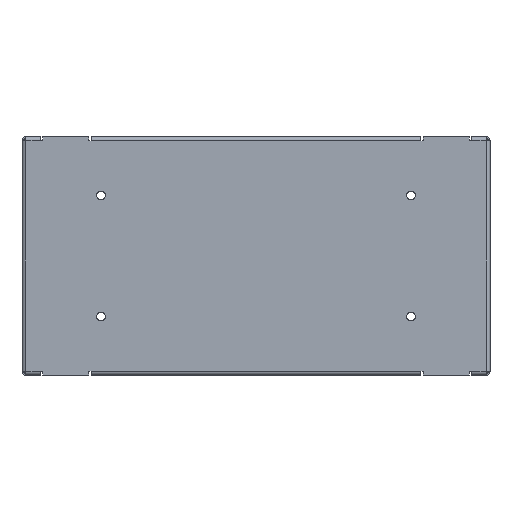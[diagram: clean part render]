
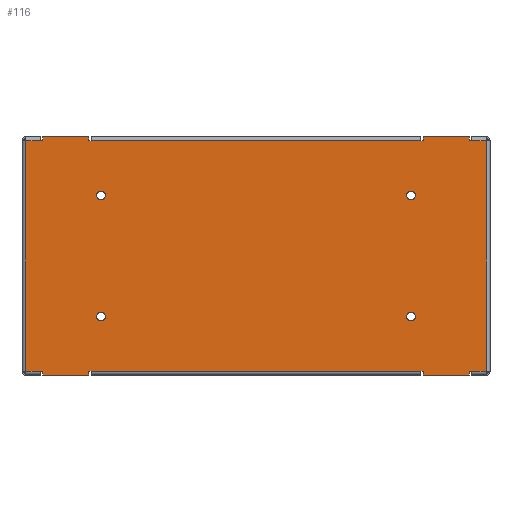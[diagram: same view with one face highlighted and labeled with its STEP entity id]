
A CAD part, top view. The second image highlights one B-rep face of the part: STEP entity #116.
In plain terms, the highlighted planar face has unit normal (0, 0, 1).
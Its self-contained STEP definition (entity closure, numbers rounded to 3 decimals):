
#116=ADVANCED_FACE('',(#582,#584,#586,#588,#590),#592,.F.);
#582=FACE_BOUND('',#583,.T.);
#583=EDGE_LOOP('',(#1966,#1967,#1968,#1969,#1970,#1971,#1972,#1973,#1974,#1975,#1976,
#1977,#1978,#1979,#1980,#1981,#1982,#1983,#1984,#1985,#1986,#1987,#1988,#1989,#1990,
#1991,#1992,#1993));
#584=FACE_BOUND('',#585,.T.);
#585=EDGE_LOOP('',(#1994));
#586=FACE_BOUND('',#587,.T.);
#587=EDGE_LOOP('',(#1995));
#588=FACE_BOUND('',#589,.T.);
#589=EDGE_LOOP('',(#1996));
#590=FACE_BOUND('',#591,.T.);
#591=EDGE_LOOP('',(#1997));
#592=PLANE('',#593);
#593=AXIS2_PLACEMENT_3D('',#594,#595,#596);
#594=CARTESIAN_POINT('',(0.,0.,0.));
#595=DIRECTION('',(0.,0.,-1.));
#596=DIRECTION('',(-1.,0.,0.));
#1966=ORIENTED_EDGE('',*,*,#2666,.T.);
#1967=ORIENTED_EDGE('',*,*,#2565,.T.);
#1968=ORIENTED_EDGE('',*,*,#2549,.T.);
#1969=ORIENTED_EDGE('',*,*,#2667,.F.);
#1970=ORIENTED_EDGE('',*,*,#2668,.F.);
#1971=ORIENTED_EDGE('',*,*,#2669,.F.);
#1972=ORIENTED_EDGE('',*,*,#2551,.T.);
#1973=ORIENTED_EDGE('',*,*,#2557,.T.);
#1974=ORIENTED_EDGE('',*,*,#2541,.T.);
#1975=ORIENTED_EDGE('',*,*,#2670,.F.);
#1976=ORIENTED_EDGE('',*,*,#2671,.F.);
#1977=ORIENTED_EDGE('',*,*,#2672,.F.);
#1978=ORIENTED_EDGE('',*,*,#2543,.T.);
#1979=ORIENTED_EDGE('',*,*,#2559,.T.);
#1980=ORIENTED_EDGE('',*,*,#2673,.T.);
#1981=ORIENTED_EDGE('',*,*,#2674,.T.);
#1982=ORIENTED_EDGE('',*,*,#2675,.F.);
#1983=ORIENTED_EDGE('',*,*,#2676,.T.);
#1984=ORIENTED_EDGE('',*,*,#2677,.T.);
#1985=ORIENTED_EDGE('',*,*,#2678,.T.);
#1986=ORIENTED_EDGE('',*,*,#2610,.F.);
#1987=ORIENTED_EDGE('',*,*,#2618,.T.);
#1988=ORIENTED_EDGE('',*,*,#2679,.F.);
#1989=ORIENTED_EDGE('',*,*,#2680,.T.);
#1990=ORIENTED_EDGE('',*,*,#2681,.T.);
#1991=ORIENTED_EDGE('',*,*,#2682,.T.);
#1992=ORIENTED_EDGE('',*,*,#2614,.F.);
#1993=ORIENTED_EDGE('',*,*,#2622,.T.);
#1994=ORIENTED_EDGE('',*,*,#2521,.T.);
#1995=ORIENTED_EDGE('',*,*,#2523,.T.);
#1996=ORIENTED_EDGE('',*,*,#2535,.F.);
#1997=ORIENTED_EDGE('',*,*,#2537,.F.);
#2521=EDGE_CURVE('',#2895,#2895,#2896,.T.);
#2523=EDGE_CURVE('',#2899,#2899,#2900,.T.);
#2535=EDGE_CURVE('',#2923,#2923,#2924,.T.);
#2537=EDGE_CURVE('',#2927,#2927,#2928,.T.);
#2541=EDGE_CURVE('',#2936,#2934,#2937,.T.);
#2543=EDGE_CURVE('',#2939,#2940,#2941,.T.);
#2549=EDGE_CURVE('',#2952,#2950,#2953,.T.);
#2551=EDGE_CURVE('',#2955,#2956,#2957,.T.);
#2557=EDGE_CURVE('',#2956,#2936,#2967,.T.);
#2559=EDGE_CURVE('',#2940,#2969,#2970,.T.);
#2565=EDGE_CURVE('',#2980,#2952,#2981,.T.);
#2610=EDGE_CURVE('',#3052,#3048,#3054,.T.);
#2614=EDGE_CURVE('',#3060,#3056,#3062,.T.);
#2618=EDGE_CURVE('',#3052,#3067,#3069,.T.);
#2622=EDGE_CURVE('',#3060,#3074,#3076,.T.);
#2666=EDGE_CURVE('',#3074,#2980,#3148,.T.);
#2667=EDGE_CURVE('',#3149,#2950,#3150,.T.);
#2668=EDGE_CURVE('',#3151,#3149,#3152,.T.);
#2669=EDGE_CURVE('',#2955,#3151,#3153,.T.);
#2670=EDGE_CURVE('',#3154,#2934,#3155,.T.);
#2671=EDGE_CURVE('',#3156,#3154,#3157,.T.);
#2672=EDGE_CURVE('',#2939,#3156,#3158,.T.);
#2673=EDGE_CURVE('',#2969,#3159,#3160,.T.);
#2674=EDGE_CURVE('',#3159,#3161,#3162,.T.);
#2675=EDGE_CURVE('',#3163,#3161,#3164,.T.);
#2676=EDGE_CURVE('',#3163,#3165,#3166,.T.);
#2677=EDGE_CURVE('',#3165,#3167,#3168,.T.);
#2678=EDGE_CURVE('',#3167,#3048,#3169,.T.);
#2679=EDGE_CURVE('',#3170,#3067,#3171,.T.);
#2680=EDGE_CURVE('',#3170,#3172,#3173,.T.);
#2681=EDGE_CURVE('',#3172,#3174,#3175,.T.);
#2682=EDGE_CURVE('',#3174,#3056,#3176,.T.);
#2895=VERTEX_POINT('',#3507);
#2896=CIRCLE('',#3508,3.65);
#2899=VERTEX_POINT('',#3517);
#2900=CIRCLE('',#3518,3.65);
#2923=VERTEX_POINT('',#3577);
#2924=CIRCLE('',#3578,3.65);
#2927=VERTEX_POINT('',#3587);
#2928=CIRCLE('',#3588,3.65);
#2934=VERTEX_POINT('',#3602);
#2936=VERTEX_POINT('',#3606);
#2937=LINE('',#3607,#3608);
#2939=VERTEX_POINT('',#3613);
#2940=VERTEX_POINT('',#3614);
#2941=LINE('',#3615,#3616);
#2950=VERTEX_POINT('',#3634);
#2952=VERTEX_POINT('',#3638);
#2953=LINE('',#3639,#3640);
#2955=VERTEX_POINT('',#3645);
#2956=VERTEX_POINT('',#3646);
#2957=LINE('',#3647,#3648);
#2967=LINE('',#3670,#3671);
#2969=VERTEX_POINT('',#3677);
#2970=LINE('',#3678,#3679);
#2980=VERTEX_POINT('',#3716);
#2981=LINE('',#3717,#3718);
#3048=VERTEX_POINT('',#3912);
#3052=VERTEX_POINT('',#3920);
#3054=LINE('',#3924,#3925);
#3056=VERTEX_POINT('',#3928);
#3060=VERTEX_POINT('',#3936);
#3062=LINE('',#3940,#3941);
#3067=VERTEX_POINT('',#3952);
#3069=LINE('',#3957,#3958);
#3074=VERTEX_POINT('',#3969);
#3076=LINE('',#3987,#3988);
#3148=LINE('',#4163,#4164);
#3149=VERTEX_POINT('',#4166);
#3150=LINE('',#4167,#4168);
#3151=VERTEX_POINT('',#4170);
#3152=LINE('',#4171,#4172);
#3153=LINE('',#4174,#4175);
#3154=VERTEX_POINT('',#4177);
#3155=LINE('',#4178,#4179);
#3156=VERTEX_POINT('',#4181);
#3157=LINE('',#4182,#4183);
#3158=LINE('',#4185,#4186);
#3159=VERTEX_POINT('',#4188);
#3160=LINE('',#4189,#4190);
#3161=VERTEX_POINT('',#4192);
#3162=LINE('',#4193,#4194);
#3163=VERTEX_POINT('',#4196);
#3164=LINE('',#4197,#4198);
#3165=VERTEX_POINT('',#4200);
#3166=LINE('',#4201,#4202);
#3167=VERTEX_POINT('',#4204);
#3168=LINE('',#4205,#4206);
#3169=LINE('',#4208,#4209);
#3170=VERTEX_POINT('',#4211);
#3171=LINE('',#4212,#4213);
#3172=VERTEX_POINT('',#4215);
#3173=LINE('',#4216,#4217);
#3174=VERTEX_POINT('',#4219);
#3175=LINE('',#4220,#4221);
#3176=LINE('',#4223,#4224);
#3507=CARTESIAN_POINT('',(-124.35,-50.,0.));
#3508=AXIS2_PLACEMENT_3D('',#3509,#3510,#3511);
#3509=CARTESIAN_POINT('',(-128.,-50.,0.));
#3510=DIRECTION('',(0.,0.,-1.));
#3511=DIRECTION('',(1.,0.,0.));
#3517=CARTESIAN_POINT('',(131.65,-50.,0.));
#3518=AXIS2_PLACEMENT_3D('',#3519,#3520,#3521);
#3519=CARTESIAN_POINT('',(128.,-50.,0.));
#3520=DIRECTION('',(0.,0.,-1.));
#3521=DIRECTION('',(1.,0.,0.));
#3577=CARTESIAN_POINT('',(-124.35,50.,0.));
#3578=AXIS2_PLACEMENT_3D('',#3579,#3580,#3581);
#3579=CARTESIAN_POINT('',(-128.,50.,0.));
#3580=DIRECTION('',(0.,0.,1.));
#3581=DIRECTION('',(-1.,0.,0.));
#3587=CARTESIAN_POINT('',(131.65,50.,0.));
#3588=AXIS2_PLACEMENT_3D('',#3589,#3590,#3591);
#3589=CARTESIAN_POINT('',(128.,50.,0.));
#3590=DIRECTION('',(0.,0.,1.));
#3591=DIRECTION('',(-1.,0.,0.));
#3602=CARTESIAN_POINT('',(138.2,-95.3,0.));
#3606=CARTESIAN_POINT('',(136.2,-95.3,0.));
#3607=CARTESIAN_POINT('',(136.2,-95.3,0.));
#3608=VECTOR('',#3609,1.);
#3609=DIRECTION('',(1.,0.,0.));
#3613=CARTESIAN_POINT('',(176.2,-95.3,0.));
#3614=CARTESIAN_POINT('',(178.2,-95.3,0.));
#3615=CARTESIAN_POINT('',(176.2,-95.3,0.));
#3616=VECTOR('',#3617,1.);
#3617=DIRECTION('',(1.,0.,0.));
#3634=CARTESIAN_POINT('',(-176.2,-95.3,0.));
#3638=CARTESIAN_POINT('',(-178.2,-95.3,0.));
#3639=CARTESIAN_POINT('',(-178.2,-95.3,0.));
#3640=VECTOR('',#3641,1.);
#3641=DIRECTION('',(1.,0.,0.));
#3645=CARTESIAN_POINT('',(-138.2,-95.3,0.));
#3646=CARTESIAN_POINT('',(-136.2,-95.3,0.));
#3647=CARTESIAN_POINT('',(-138.2,-95.3,0.));
#3648=VECTOR('',#3649,1.);
#3649=DIRECTION('',(1.,0.,0.));
#3670=CARTESIAN_POINT('',(-136.2,-95.3,0.));
#3671=VECTOR('',#3672,1.);
#3672=DIRECTION('',(1.,0.,0.));
#3677=CARTESIAN_POINT('',(190.,-95.3,0.));
#3678=CARTESIAN_POINT('',(178.2,-95.3,0.));
#3679=VECTOR('',#3680,1.);
#3680=DIRECTION('',(1.,0.,0.));
#3716=CARTESIAN_POINT('',(-190.,-95.3,0.));
#3717=CARTESIAN_POINT('',(-190.,-95.3,0.));
#3718=VECTOR('',#3719,1.);
#3719=DIRECTION('',(1.,0.,0.));
#3912=CARTESIAN_POINT('',(138.2,95.3,0.));
#3920=CARTESIAN_POINT('',(136.2,95.3,0.));
#3924=CARTESIAN_POINT('',(136.2,95.3,0.));
#3925=VECTOR('',#3926,1.);
#3926=DIRECTION('',(1.,0.,0.));
#3928=CARTESIAN_POINT('',(-176.2,95.3,0.));
#3936=CARTESIAN_POINT('',(-178.2,95.3,0.));
#3940=CARTESIAN_POINT('',(-178.2,95.3,0.));
#3941=VECTOR('',#3942,1.);
#3942=DIRECTION('',(1.,0.,0.));
#3952=CARTESIAN_POINT('',(-136.2,95.3,0.));
#3957=CARTESIAN_POINT('',(136.2,95.3,0.));
#3958=VECTOR('',#3959,1.);
#3959=DIRECTION('',(-1.,0.,0.));
#3969=CARTESIAN_POINT('',(-190.,95.3,0.));
#3987=CARTESIAN_POINT('',(-178.2,95.3,0.));
#3988=VECTOR('',#3989,1.);
#3989=DIRECTION('',(-1.,0.,0.));
#4163=CARTESIAN_POINT('',(-190.,95.3,0.));
#4164=VECTOR('',#4165,1.);
#4165=DIRECTION('',(0.,-1.,0.));
#4166=CARTESIAN_POINT('',(-176.2,-98.5,0.));
#4167=CARTESIAN_POINT('',(-176.2,-98.5,0.));
#4168=VECTOR('',#4169,1.);
#4169=DIRECTION('',(0.,1.,0.));
#4170=CARTESIAN_POINT('',(-138.2,-98.5,0.));
#4171=CARTESIAN_POINT('',(-138.2,-98.5,0.));
#4172=VECTOR('',#4173,1.);
#4173=DIRECTION('',(-1.,0.,0.));
#4174=CARTESIAN_POINT('',(-138.2,-95.3,0.));
#4175=VECTOR('',#4176,1.);
#4176=DIRECTION('',(0.,-1.,0.));
#4177=CARTESIAN_POINT('',(138.2,-98.5,0.));
#4178=CARTESIAN_POINT('',(138.2,-98.5,0.));
#4179=VECTOR('',#4180,1.);
#4180=DIRECTION('',(0.,1.,0.));
#4181=CARTESIAN_POINT('',(176.2,-98.5,0.));
#4182=CARTESIAN_POINT('',(176.2,-98.5,0.));
#4183=VECTOR('',#4184,1.);
#4184=DIRECTION('',(-1.,0.,0.));
#4185=CARTESIAN_POINT('',(176.2,-95.3,0.));
#4186=VECTOR('',#4187,1.);
#4187=DIRECTION('',(0.,-1.,0.));
#4188=CARTESIAN_POINT('',(190.,95.3,0.));
#4189=CARTESIAN_POINT('',(190.,-95.3,0.));
#4190=VECTOR('',#4191,1.);
#4191=DIRECTION('',(0.,1.,0.));
#4192=CARTESIAN_POINT('',(178.2,95.3,0.));
#4193=CARTESIAN_POINT('',(190.,95.3,0.));
#4194=VECTOR('',#4195,1.);
#4195=DIRECTION('',(-1.,0.,0.));
#4196=CARTESIAN_POINT('',(176.2,95.3,0.));
#4197=CARTESIAN_POINT('',(176.2,95.3,0.));
#4198=VECTOR('',#4199,1.);
#4199=DIRECTION('',(1.,0.,0.));
#4200=CARTESIAN_POINT('',(176.2,98.5,0.));
#4201=CARTESIAN_POINT('',(176.2,95.3,0.));
#4202=VECTOR('',#4203,1.);
#4203=DIRECTION('',(0.,1.,0.));
#4204=CARTESIAN_POINT('',(138.2,98.5,0.));
#4205=CARTESIAN_POINT('',(176.2,98.5,0.));
#4206=VECTOR('',#4207,1.);
#4207=DIRECTION('',(-1.,0.,0.));
#4208=CARTESIAN_POINT('',(138.2,98.5,0.));
#4209=VECTOR('',#4210,1.);
#4210=DIRECTION('',(0.,-1.,0.));
#4211=CARTESIAN_POINT('',(-138.2,95.3,0.));
#4212=CARTESIAN_POINT('',(-138.2,95.3,0.));
#4213=VECTOR('',#4214,1.);
#4214=DIRECTION('',(1.,0.,0.));
#4215=CARTESIAN_POINT('',(-138.2,98.5,0.));
#4216=CARTESIAN_POINT('',(-138.2,95.3,0.));
#4217=VECTOR('',#4218,1.);
#4218=DIRECTION('',(0.,1.,0.));
#4219=CARTESIAN_POINT('',(-176.2,98.5,0.));
#4220=CARTESIAN_POINT('',(-138.2,98.5,0.));
#4221=VECTOR('',#4222,1.);
#4222=DIRECTION('',(-1.,0.,0.));
#4223=CARTESIAN_POINT('',(-176.2,98.5,0.));
#4224=VECTOR('',#4225,1.);
#4225=DIRECTION('',(0.,-1.,0.));
